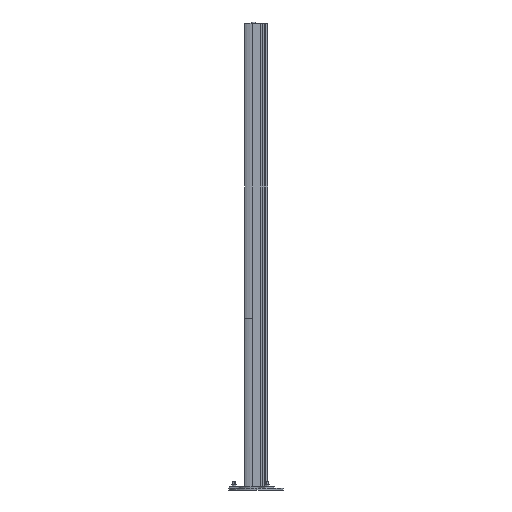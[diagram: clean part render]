
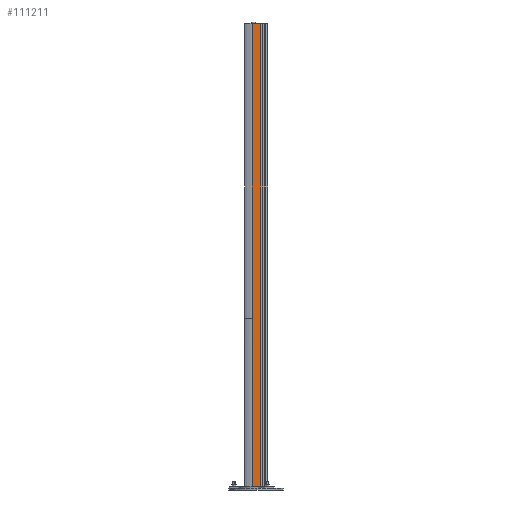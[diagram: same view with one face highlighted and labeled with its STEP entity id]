
A CAD part, left-side view. The second image highlights one B-rep face of the part: STEP entity #111211.
In plain terms, the highlighted planar face has unit normal (-1, 0, 0).
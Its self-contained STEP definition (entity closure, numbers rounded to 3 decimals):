
#104719=DIRECTION('',(0.,1.,0.));
#104720=VECTOR('',#104719,30.399);
#104721=CARTESIAN_POINT('',(-337.654,-66.035,
1567.));
#104722=LINE('',#104721,#104720);
#104726=DIRECTION('',(0.,1.,0.));
#104727=VECTOR('',#104726,30.399);
#104728=CARTESIAN_POINT('',(-337.654,-66.035,
-83.));
#104729=LINE('',#104728,#104727);
#104733=DIRECTION('',(0.,0.,1.));
#104734=VECTOR('',#104733,1650.);
#104735=CARTESIAN_POINT('',(-337.654,-35.636,
-83.));
#104736=LINE('',#104735,#104734);
#104740=DIRECTION('',(0.,0.,-1.));
#104741=VECTOR('',#104740,1650.);
#104742=CARTESIAN_POINT('',(-337.654,-66.035,
1567.));
#104743=LINE('',#104742,#104741);
#107674=CARTESIAN_POINT('',(-337.654,-35.636,
-83.));
#107676=VERTEX_POINT('',#107674);
#107838=CARTESIAN_POINT('',(-337.653,-35.636,
1567.));
#107840=VERTEX_POINT('',#107838);
#108118=CARTESIAN_POINT('',(-337.654,-66.035,
-83.));
#108119=VERTEX_POINT('',#108118);
#108540=CARTESIAN_POINT('',(-337.654,-66.035,
1567.));
#108541=VERTEX_POINT('',#108540);
#111198=CARTESIAN_POINT('',(-337.654,-50.836,
742.));
#111199=DIRECTION('',(1.,0.,0.));
#111200=DIRECTION('',(0.,1.,0.));
#111201=AXIS2_PLACEMENT_3D('',#111198,#111199,#111200);
#111202=PLANE('',#111201);
#111203=ORIENTED_EDGE('',*,*,#108937,.F.);
#111205=ORIENTED_EDGE('',*,*,#111204,.T.);
#111206=ORIENTED_EDGE('',*,*,#109771,.T.);
#111208=ORIENTED_EDGE('',*,*,#111207,.T.);
#111209=EDGE_LOOP('',(#111203,#111205,#111206,#111208));
#111210=FACE_OUTER_BOUND('',#111209,.F.);
#111211=ADVANCED_FACE('',(#111210),#111202,.F.);
#108937=EDGE_CURVE('',#108541,#107840,#104722,.T.);
#109771=EDGE_CURVE('',#108119,#107676,#104729,.T.);
#111204=EDGE_CURVE('',#108541,#108119,#104743,.T.);
#111207=EDGE_CURVE('',#107676,#107840,#104736,.T.);
